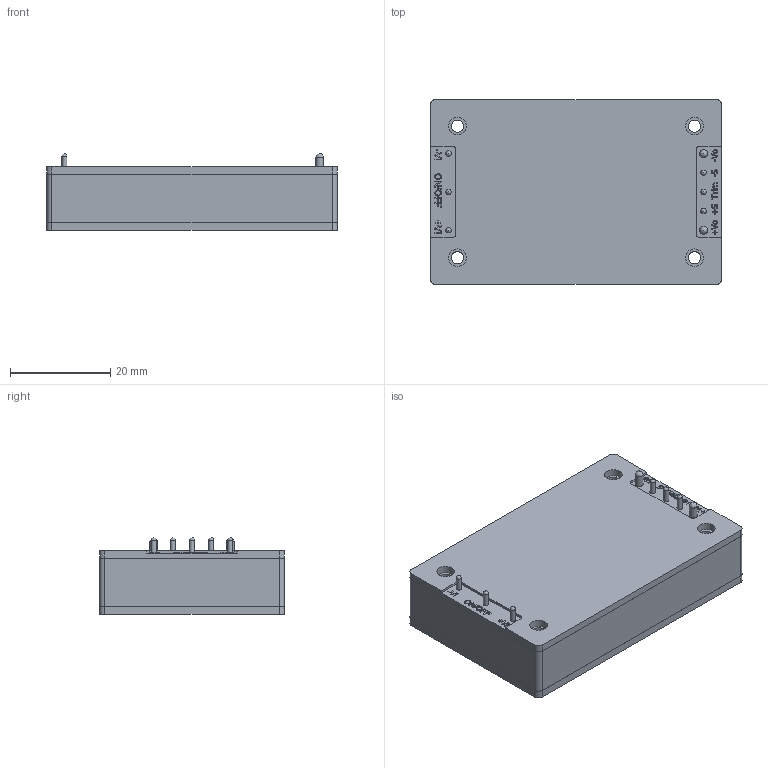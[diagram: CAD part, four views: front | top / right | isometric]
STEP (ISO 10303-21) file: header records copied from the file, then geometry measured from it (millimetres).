
FILE_DESCRIPTION(/* description */ (''),/* implementation_level */ '2;1');
FILE_NAME(/* name */ 'C:\Users\CALLIOPE\Documents\Inventor\機台模治具\型錄用3D尺寸外觀\型錄用-STEP檔\MTQZ50+MTQZ75.stp',/* time_stamp */ '2015-03-12T19:29:37+08:00',/* author */ ('CALLIOPE'),/* organization */ (''),/* preprocessor_version */ 'ST-DEVELOPER v15.6',/* originating_system */ 'Autodesk Inventor 2015',/* authorisation */ '');
FILE_SCHEMA (('AUTOMOTIVE_DESIGN { 1 0 10303 214 3 1 1 }'));
Length unit declared in the file: millimetre
Products named in the file (1): MTQZ50+MTQZ75
Bounding box: 57.9 x 36.8 x 15.3 mm (x, y, z)
Volume: 26635.5 mm3; surface area: 7200 mm2
Topology: 1 solids, 1 shells, 377 faces, 972 edges, 648 vertices
Faces by surface type: plane 241, bspline 84, cylinder 44, sphere 8
Full cylindrical faces by diameter (mm): 1 x6, 1.1 x6, 1.5 x2, 1.6 x2, 2.459 x4, 3.5 x8
Entity records: 11550 total; most frequent: CARTESIAN_POINT 3038, ORIENTED_EDGE 1840, DIRECTION 1428, EDGE_CURVE 920, LINE 664, VECTOR 664, VERTEX_POINT 632, EDGE_LOOP 472
